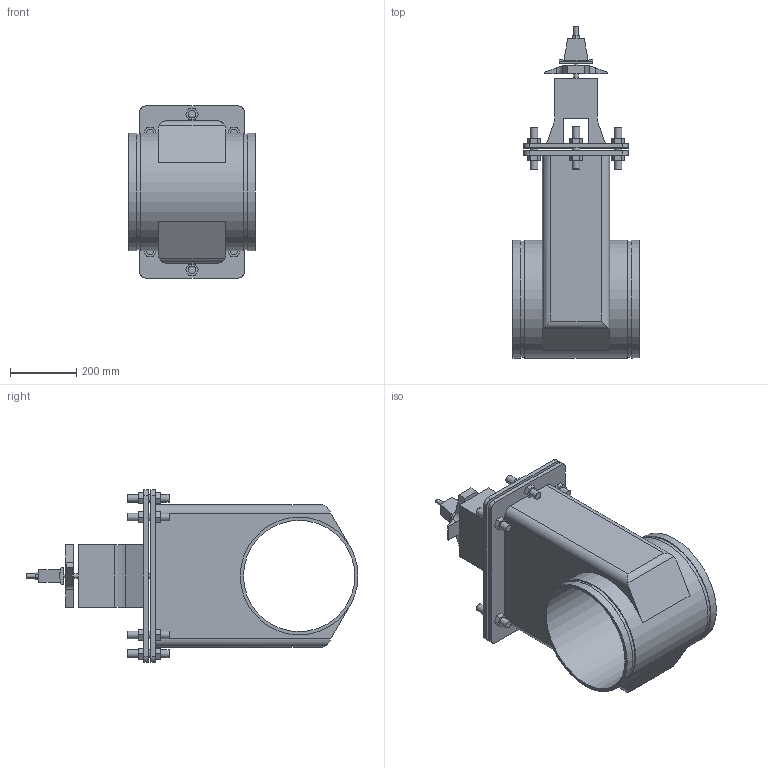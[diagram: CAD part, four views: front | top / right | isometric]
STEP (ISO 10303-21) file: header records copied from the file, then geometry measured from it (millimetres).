
FILE_DESCRIPTION(/* description */ ('VIC GATE VALVE SERIES 772H NRS','CAx-IF Rec.Pracs.---Representation and Presentation of Product Manufacturing Information (PMI)---4.0---2014-10-13'),/* implementation_level */ '2;1');
FILE_NAME(/* name */ 'C:\Users\Vjadhav\AppData\Roaming\Autodesk\ApplicationPlugins\Back Up\Victaulic_FP-FireLock_Valve Gate NRS_Series 772H (OGS)\Victaulic_FP-FireLock_Valve Gate NRS_Series 772H (OGS)_14 (350).stp',/* time_stamp */ '2020-07-20T15:49:46+05:00',/* author */ ('kkamble'),/* organization */ ('Victaulic'),/* preprocessor_version */ 'ST-DEVELOPER v17.2',/* originating_system */ 'Autodesk Inventor 2019',/* authorisation */ '');
FILE_SCHEMA (('AP242_MANAGED_MODEL_BASED_3D_ENGINEERING_MIM_LF { 1 0 10303 442 1 1 4 }'));
Length unit declared in the file: inch
Products named in the file (1): 772H-14.0
Bounding box: 381 x 1003.3 x 519.94 mm (x, y, z)
Volume: 42798377.7 mm3; surface area: 2117416.4 mm2
Topology: 1 solids, 1 shells, 213 faces, 527 edges, 355 vertices
Faces by surface type: plane 164, cylinder 49
Full cylindrical faces by diameter (mm): 12.7 x4, 22.86 x18, 336.55 x1, 350.037 x2, 355.6 x3
Entity records: 6697 total; most frequent: CARTESIAN_POINT 1113, DIRECTION 1094, ORIENTED_EDGE 1054, EDGE_CURVE 527, LINE 414, VECTOR 414, VERTEX_POINT 355, AXIS2_PLACEMENT_3D 340
